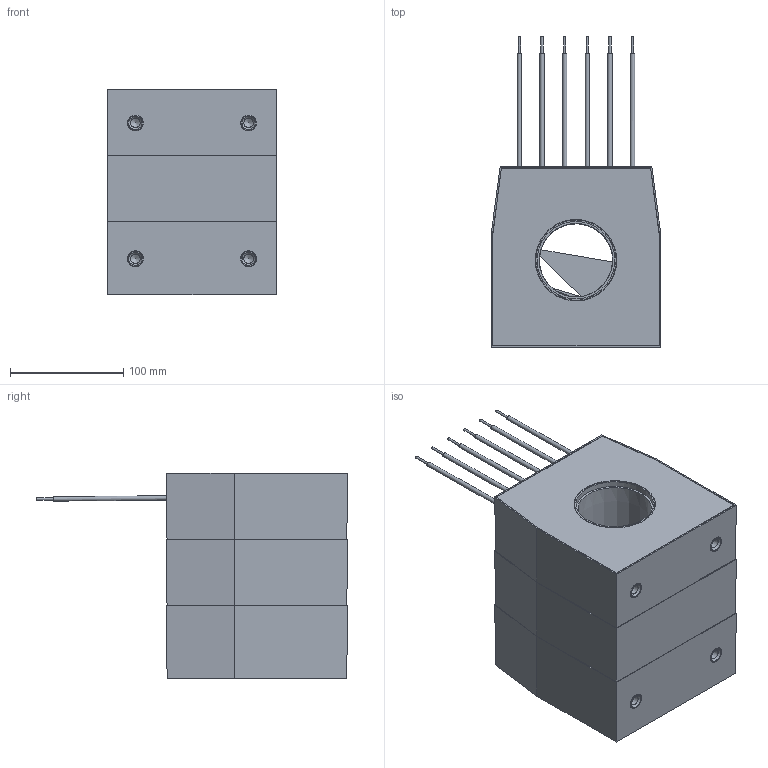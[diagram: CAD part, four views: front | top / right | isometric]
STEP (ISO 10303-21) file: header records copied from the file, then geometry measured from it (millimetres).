
FILE_DESCRIPTION(('STEP AP203'), '1');
FILE_NAME('ÒØÏ-ÍÒÇ-0,66-83Ñ (65 ìì, 3-é ãàáàðèò)', '2025-08-27T09:43:50', ('UNSPECIFIED'), ('UNSPECIFIED'), 'ASCON STEP Converter 1.3', 'ASCON Math Kernel', '');
FILE_SCHEMA(('CONFIG_CONTROL_DESIGN'));
Length unit declared in the file: millimetre
Assembly tree (17 placements, depth 2):
  (unnamed)
    (unnamed)
    (unnamed)
    (unnamed)
    (unnamed)  x3
    (unnamed)  x4
    (unnamed)
    (unnamed)  x6
Bounding box: 150 x 274.82 x 182 mm (x, y, z)
Volume: 650198.5 mm3; surface area: 426433.4 mm2
Topology: 17 solids, 17 shells, 251 faces, 548 edges, 355 vertices
Faces by surface type: plane 155, cylinder 63, cone 25, torus 8
Full cylindrical faces by diameter (mm): 2 x6, 3.9 x6, 4 x5, 6 x8, 8.376 x4, 14 x8, 17 x4, 65 x1, 65.05 x1, 68.599 x6, 68.6 x1, 71 x1
Entity records: 7088 total; most frequent: CARTESIAN_POINT 907, DIRECTION 852, ORIENTED_EDGE 782, EDGE_CURVE 391, LINE 300, VECTOR 300, VERTEX_POINT 282, AXIS2_PLACEMENT_3D 276
